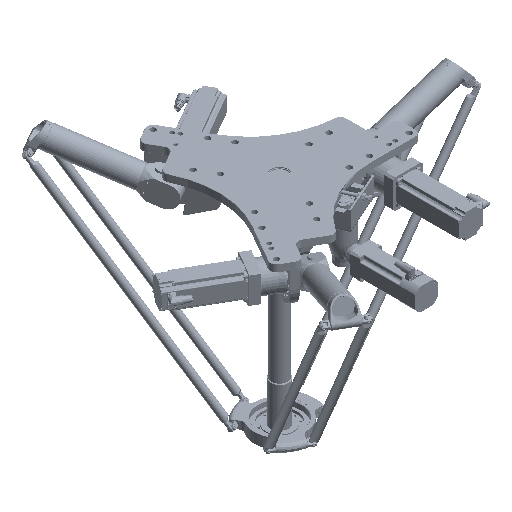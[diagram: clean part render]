
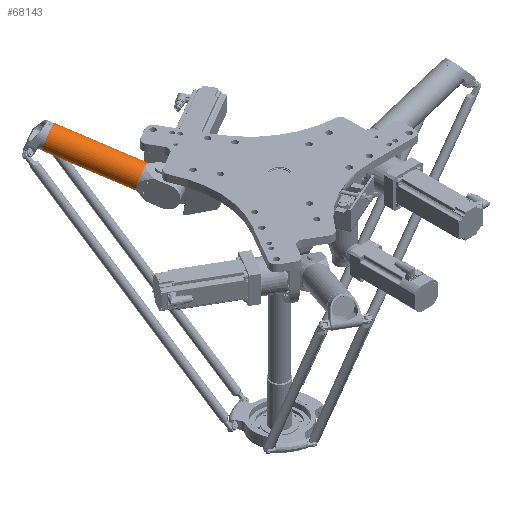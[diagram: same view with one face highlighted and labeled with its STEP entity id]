
A CAD part, isometric view. The second image highlights one B-rep face of the part: STEP entity #68143.
In plain terms, the highlighted cylindrical face has radius 44 mm (diameter 88 mm), a full revolution.
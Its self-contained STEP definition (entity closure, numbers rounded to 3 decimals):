
#6469 = AXIS2_PLACEMENT_3D ( 'NONE', #72795, #168397, #22438 ) ;
#22438 = DIRECTION ( 'NONE',  ( 0.153, -0.265, 0.952 ) ) ;
#24078 = ORIENTED_EDGE ( 'NONE', *, *, #33338, .T. ) ;
#30750 = CARTESIAN_POINT ( 'NONE',  ( -201.644, 349.257, -12.775 ) ) ;
#33338 = EDGE_CURVE ( 'NONE', #86533, #86533, #144484, .T. ) ;
#43538 = CARTESIAN_POINT ( 'NONE',  ( -341.186, 590.952, 76.773 ) ) ;
#63802 = DIRECTION ( 'NONE',  ( 0.476, -0.825, -0.306 ) ) ;
#68143 = ADVANCED_FACE ( 'NONE', ( #92735, #145700 ), #107235, .T. ) ;
#72795 = CARTESIAN_POINT ( 'NONE',  ( -278.136, 481.746, -9.897 ) ) ;
#74103 = EDGE_LOOP ( 'NONE', ( #24078 ) ) ;
#86533 = VERTEX_POINT ( 'NONE', #43538 ) ;
#92735 = FACE_OUTER_BOUND ( 'NONE', #74103, .T. ) ;
#92866 = EDGE_CURVE ( 'NONE', #178607, #178607, #155153, .T. ) ;
#102542 = CARTESIAN_POINT ( 'NONE',  ( -347.908, 602.594, 34.877 ) ) ;
#102726 = CARTESIAN_POINT ( 'NONE',  ( -208.365, 360.899, -54.672 ) ) ;
#107235 = CYLINDRICAL_SURFACE ( 'NONE', #6469, 44. ) ;
#126053 = EDGE_LOOP ( 'NONE', ( #139199 ) ) ;
#139199 = ORIENTED_EDGE ( 'NONE', *, *, #92866, .T. ) ;
#140616 = DIRECTION ( 'NONE',  ( -0.476, 0.825, 0.306 ) ) ;
#144484 = CIRCLE ( 'NONE', #179088, 44. ) ;
#145700 = FACE_OUTER_BOUND ( 'NONE', #126053, .T. ) ;
#153504 = AXIS2_PLACEMENT_3D ( 'NONE', #102726, #140616, #159544 ) ;
#155153 = CIRCLE ( 'NONE', #153504, 44. ) ;
#159544 = DIRECTION ( 'NONE',  ( 0.153, -0.265, 0.952 ) ) ;
#168397 = DIRECTION ( 'NONE',  ( 0.476, -0.825, -0.306 ) ) ;
#178607 = VERTEX_POINT ( 'NONE', #30750 ) ;
#179088 = AXIS2_PLACEMENT_3D ( 'NONE', #102542, #63802, #233574 ) ;
#233574 = DIRECTION ( 'NONE',  ( 0.153, -0.265, 0.952 ) ) ;
